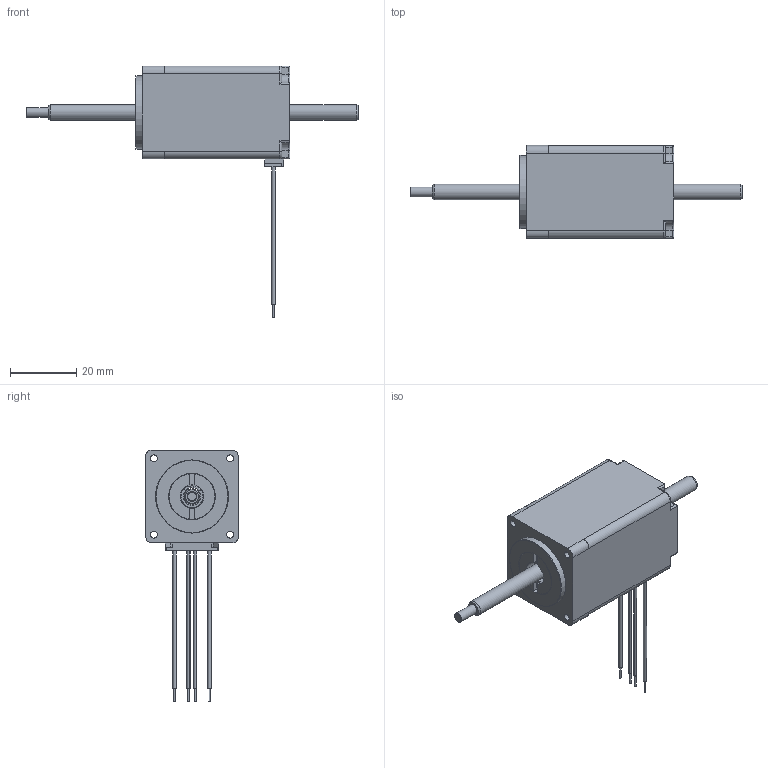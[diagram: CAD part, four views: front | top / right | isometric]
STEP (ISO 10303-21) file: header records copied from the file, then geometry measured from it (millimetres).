
FILE_DESCRIPTION( ('This file contains a STEP AP42 implementation' ,'as created by ZW3D STEP Interface translator.' ,'') ,'2;1' );
FILE_NAME( '28NC4X-XX-XXX.stp' ,'251231.155813', (''), ('ZWCAD Software Co.'), 'Version 1.0', 'ZW3D to STEP translator', '' );
FILE_SCHEMA(('AUTOMOTIVE_DESIGN { 1 0 10303 214 1 1 1 1 }'));
Length unit declared in the file: millimetre
Products named in the file (1): 0
Bounding box: 100 x 28 x 75.9 mm (x, y, z)
Volume: 15671 mm3; surface area: 17780.6 mm2
Topology: 5 solids, 5 shells, 484 faces, 1281 edges, 815 vertices
Faces by surface type: plane 321, cylinder 124, torus 17, bspline 13, cone 9
Full cylindrical faces by diameter (mm): 0.5 x8, 1 x2, 1.4 x8, 2.05 x4, 2.8 x4, 3 x5, 4.76 x1, 5.3 x2, 7 x1, 7.11 x1, 8.5 x1, 10.5 x1, 14 x4, 16.9 x2, 22 x1
Entity records: 15702 total; most frequent: CARTESIAN_POINT 3083, ORIENTED_EDGE 2562, DIRECTION 2448, EDGE_CURVE 1281, VECTOR 872, LINE 872, VERTEX_POINT 815, AXIS2_PLACEMENT_3D 788
